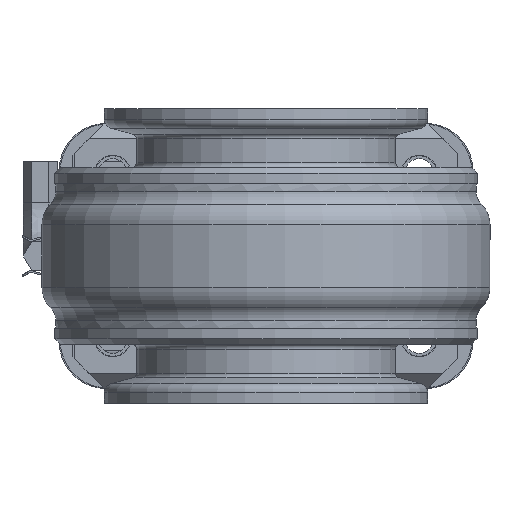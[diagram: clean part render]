
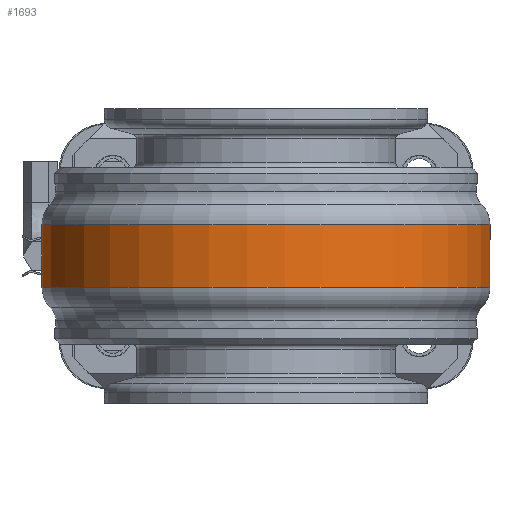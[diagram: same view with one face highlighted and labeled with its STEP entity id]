
A CAD part, front view. The second image highlights one B-rep face of the part: STEP entity #1693.
In plain terms, the highlighted cylindrical face has radius 38.075 mm (diameter 76.15 mm), a partial arc.
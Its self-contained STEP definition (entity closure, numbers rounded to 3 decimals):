
#1693 = ADVANCED_FACE( '', ( #3782 ), #3783, .T. );
#3782 = FACE_OUTER_BOUND( '', #6753, .T. );
#3783 = CYLINDRICAL_SURFACE( '', #6754, 38.075 );
#6753 = EDGE_LOOP( '', ( #11231, #11232, #11233, #11234 ) );
#6754 = AXIS2_PLACEMENT_3D( '', #11235, #11236, #11237 );
#11231 = ORIENTED_EDGE( '', *, *, #18022, .T. );
#11232 = ORIENTED_EDGE( '', *, *, #17562, .T. );
#11233 = ORIENTED_EDGE( '', *, *, #17201, .T. );
#11234 = ORIENTED_EDGE( '', *, *, #18023, .T. );
#11235 = CARTESIAN_POINT( '', ( 0., 0., 8. ) );
#11236 = DIRECTION( '', ( 0., 0., 1. ) );
#11237 = DIRECTION( '', ( -1., 0., 0. ) );
#17201 = EDGE_CURVE( '', #20167, #20168, #20169, .T. );
#17562 = EDGE_CURVE( '', #20788, #20167, #20794, .T. );
#18022 = EDGE_CURVE( '', #20815, #20788, #21539, .T. );
#18023 = EDGE_CURVE( '', #20168, #20815, #21540, .T. );
#20167 = VERTEX_POINT( '', #24479 );
#20168 = VERTEX_POINT( '', #24480 );
#20169 = LINE( '', #24481, #24482 );
#20788 = VERTEX_POINT( '', #25582 );
#20794 = CIRCLE( '', #25588, 38.075 );
#20815 = VERTEX_POINT( '', #25613 );
#21539 = LINE( '', #26819, #26820 );
#21540 = CIRCLE( '', #26821, 38.075 );
#24479 = CARTESIAN_POINT( '', ( 35.055, 14.861, -5.265 ) );
#24480 = CARTESIAN_POINT( '', ( 35.055, 14.861, 5.265 ) );
#24481 = CARTESIAN_POINT( '', ( 35.055, 14.861, 8. ) );
#24482 = VECTOR( '', #31117, 1000. );
#25582 = CARTESIAN_POINT( '', ( -35.055, 14.861, -5.265 ) );
#25588 = AXIS2_PLACEMENT_3D( '', #31542, #31543, #31544 );
#25613 = CARTESIAN_POINT( '', ( -35.055, 14.861, 5.265 ) );
#26819 = CARTESIAN_POINT( '', ( -35.055, 14.861, 8. ) );
#26820 = VECTOR( '', #32074, 1000. );
#26821 = AXIS2_PLACEMENT_3D( '', #32075, #32076, #32077 );
#31117 = DIRECTION( '', ( 0., 0., 1. ) );
#31542 = CARTESIAN_POINT( '', ( 0., 0., -5.265 ) );
#31543 = DIRECTION( '', ( 0., 0., 1. ) );
#31544 = DIRECTION( '', ( 1., 0., 0. ) );
#32074 = DIRECTION( '', ( 0., 0., -1. ) );
#32075 = CARTESIAN_POINT( '', ( 0., 0., 5.265 ) );
#32076 = DIRECTION( '', ( 0., 0., -1. ) );
#32077 = DIRECTION( '', ( -1., 0., 0. ) );
